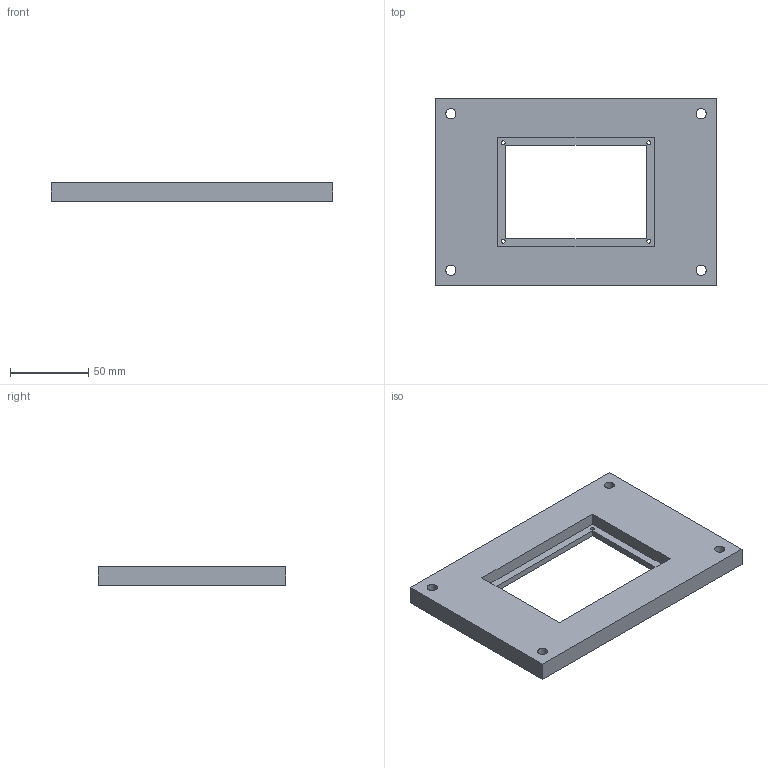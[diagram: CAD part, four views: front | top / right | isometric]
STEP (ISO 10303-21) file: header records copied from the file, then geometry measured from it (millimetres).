
FILE_DESCRIPTION(('Open CASCADE Model'),'2;1');
FILE_NAME('Open CASCADE Shape Model','2026-10-28T05:16:18',('Author'),( 'Open CASCADE'),'Open CASCADE STEP processor 7.8','Open CASCADE 7.8' ,'Unknown');
FILE_SCHEMA(('AUTOMOTIVE_DESIGN { 1 0 10303 214 1 1 1 1 }'));
Length unit declared in the file: millimetre
Products named in the file (1): Open CASCADE STEP translator 7.8 19
Bounding box: 180 x 120 x 12 mm (x, y, z)
Volume: 179901.5 mm3; surface area: 44321.7 mm2
Topology: 1 solids, 1 shells, 23 faces, 60 edges, 40 vertices
Faces by surface type: plane 15, cylinder 8
Full cylindrical faces by diameter (mm): 2.5 x4, 6.5 x4
Entity records: 1528 total; most frequent: CARTESIAN_POINT 252, DIRECTION 236, LINE 140, VECTOR 140, ORIENTED_EDGE 120, PCURVE 120, DEFINITIONAL_REPRESENTATION 120, EDGE_CURVE 60
